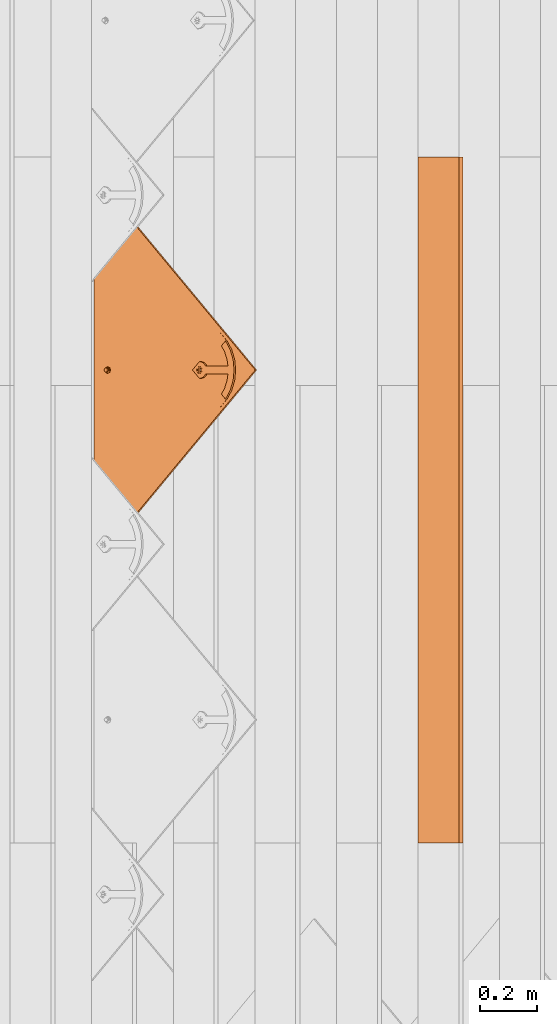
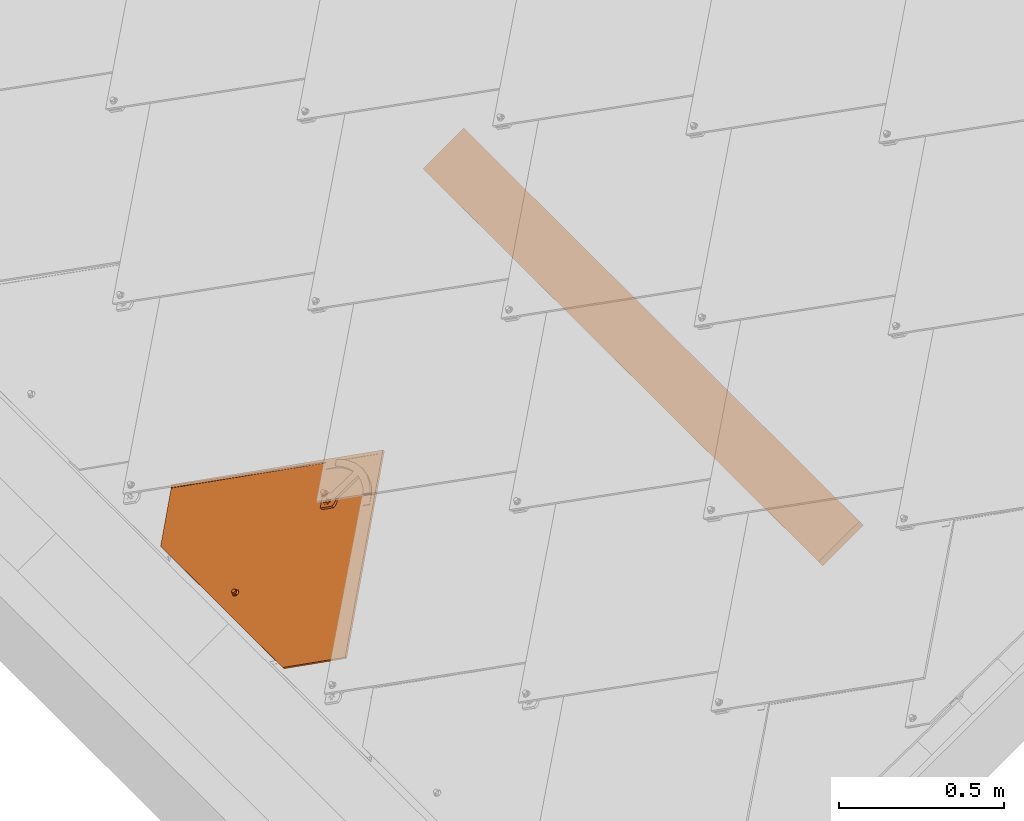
# One storey, part 21 of 151: 2 proxies, 1 element without a shape of its own.
"""IFC2X3 building model written with IfcOpenShell, lengths in millimetres."""

from ifc_helpers import new_model, entity, si_unit, converted_unit, derived_unit, direction, frame, frame_2d, origin, place, context, subcontext, project, spatial, rectangle, extrude, faceted_brep, source, transform, mapped, material, material_list, type_object, type_shapes, element, aggregate, save


model = new_model("IFC2X3")

# Units and contexts
model_context = context("Model", 3, precision=0.01, world=origin(), true_north=direction((6.12303176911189e-17, 1.0)))
body_context = subcontext(model_context, "Body", "Model", "MODEL_VIEW")
ifc_project = project(units=[si_unit("LENGTHUNIT", "METRE", prefix="MILLI"), si_unit("AREAUNIT", "SQUARE_METRE"), si_unit("VOLUMEUNIT", "CUBIC_METRE"), converted_unit("PLANEANGLEUNIT", "DEGREE", entity("IfcRatioMeasure", 0.0174532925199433), si_unit("PLANEANGLEUNIT", "RADIAN"), dimensions=[0, 0, 0, 0, 0, 0, 0]), si_unit("MASSUNIT", "GRAM", prefix="KILO"), derived_unit("MASSDENSITYUNIT", [(si_unit("MASSUNIT", "GRAM", prefix="KILO"), 1), (si_unit("LENGTHUNIT", "METRE"), -3)]), si_unit("TIMEUNIT", "SECOND"), si_unit("FREQUENCYUNIT", "HERTZ"), si_unit("THERMODYNAMICTEMPERATUREUNIT", "DEGREE_CELSIUS"), derived_unit("THERMALTRANSMITTANCEUNIT", [(si_unit("MASSUNIT", "GRAM", prefix="KILO"), 1), (si_unit("THERMODYNAMICTEMPERATUREUNIT", "KELVIN"), -1), (si_unit("TIMEUNIT", "SECOND"), -3)]), derived_unit("VOLUMETRICFLOWRATEUNIT", [(si_unit("LENGTHUNIT", "METRE"), 3), (si_unit("TIMEUNIT", "SECOND"), -1)]), si_unit("ELECTRICCURRENTUNIT", "AMPERE"), si_unit("ELECTRICVOLTAGEUNIT", "VOLT"), si_unit("POWERUNIT", "WATT"), si_unit("FORCEUNIT", "NEWTON", prefix="KILO"), si_unit("ILLUMINANCEUNIT", "LUX"), si_unit("LUMINOUSFLUXUNIT", "LUMEN"), si_unit("LUMINOUSINTENSITYUNIT", "CANDELA"), derived_unit("USERDEFINED", [(si_unit("MASSUNIT", "GRAM", prefix="KILO"), -1), (si_unit("LENGTHUNIT", "METRE"), -2), (si_unit("TIMEUNIT", "SECOND"), 3), (si_unit("LUMINOUSFLUXUNIT", "LUMEN"), 1)]), derived_unit("LINEARVELOCITYUNIT", [(si_unit("LENGTHUNIT", "METRE"), 1), (si_unit("TIMEUNIT", "SECOND"), -1)]), si_unit("PRESSUREUNIT", "PASCAL"), derived_unit("USERDEFINED", [(si_unit("LENGTHUNIT", "METRE"), -2), (si_unit("MASSUNIT", "GRAM", prefix="KILO"), 1), (si_unit("TIMEUNIT", "SECOND"), -2)])], contexts=[model_context])

# Site, building, storey
site_placement = place(None, origin())
site = spatial("IfcSite", under=ifc_project, at=site_placement, Name="Default", CompositionType="ELEMENT")
building_placement = place(site_placement, origin())
building = spatial("IfcBuilding", under=site, at=building_placement, CompositionType="ELEMENT")
storey_placement = place(building_placement, origin())
storey = spatial("IfcBuildingStorey", under=building, at=storey_placement, Name="Level 1", CompositionType="ELEMENT", Elevation=0.0)

# Assembly, proxy
assembly_placement = place(storey_placement, origin())
assembly = element("IfcElementAssembly", 1, at=assembly_placement, inside=storey, Name="Structural Framing Assembly:Roof Construction Assembly", ObjectType="Structural Framing Assembly:Roof Construction Assembly", AssemblyPlace="NOTDEFINED", PredefinedType="USERDEFINED")
ifc_material_1 = material(Name="Wood - Generic - Wood For Showcase")
building_element_proxy_type_1 = type_object("IfcBuildingElementProxyType", Name="Structural Framing 15", PredefinedType="NOTDEFINED", material=ifc_material_1)
shared_shape_1 = source(origin(), body_context, "Body", "SweptSolid", [
    extrude(rectangle(XDim=24.9999999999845, YDim=174.344679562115, at=frame_2d((-1.77635683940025e-13, -4.54747350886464e-13), x_axis=(0.0, 1.0))), frame((1128.20180147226, 1525.55080214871, 2760.23940055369), z_axis=(0.0, 1.0, 0.0), x_axis=(-0.819152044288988, 0.0, -0.573576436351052)), (0.0, 0.0, 1.0), 2400.0),
])
type_shapes(building_element_proxy_type_1, [shared_shape_1])
proxy_1_placement = place(assembly_placement, frame((-2227.54893967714, -7270.0, -1600.0)))
proxy_1 = element("IfcBuildingElementProxy", 2, at=proxy_1_placement, type_object=building_element_proxy_type_1, material=ifc_material_1, Name="Structural Framing 98:Structural Framing 15", ObjectType="Structural Framing 98:Structural Framing 15", context=body_context, shape_type="MappedRepresentation", body=[
    mapped(shared_shape_1, transform((0.0, 0.0, 0.0), scale=1.0)),
])
aggregate(assembly, [proxy_1])

# Proxy
ifc_material_2 = material(Name="Rubber - Sunstyle - Black")
ifc_material_3 = material(Name="Glass - Sunstyle - Tainted Black")
ifc_material_list_1 = material_list([ifc_material_2, ifc_material_3])
ifc_material_list_2 = material_list([ifc_material_2, ifc_material_3])
building_element_proxy_type_2 = type_object("IfcBuildingElementProxyType", Name="Shingle Bottom - Black", PredefinedType="NOTDEFINED", material=ifc_material_list_2)
shared_shape_2 = source(origin(), body_context, "Body", "Brep", [
    faceted_brep([(0.0, -1.79273515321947, -4.01619789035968), (-5.7742028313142, -5.12600528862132, -3.96037390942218), (-5.77420283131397, -4.75769619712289, 18.0314954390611), (0.0, -1.42442606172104, 17.9756714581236), (-5.77420283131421, -11.792545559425, -3.84872594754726), (-5.77420283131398, -11.4242364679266, 18.143143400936), (0.0, -15.1258156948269, -3.79290196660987), (0.0, -14.7575066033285, 18.1989673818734), (5.77420283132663, -11.7925455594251, -3.84872594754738), (5.77420283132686, -11.4242364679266, 18.1431434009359), (5.77420283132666, -5.12600528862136, -3.96037390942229), (5.77420283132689, -4.75769619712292, 18.031495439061), (-8.60370416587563, -16.6934641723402, 18.2313898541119), (0.0, -20.2567354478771, 18.2910657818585), (-12.1674751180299, -8.09096633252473, 18.0873194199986), (-8.60370416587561, 0.511531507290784, 17.9432489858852), (0.0, 4.07480278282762, 17.8835730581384), (8.60370416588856, 0.511531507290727, 17.9432489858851), (12.1674751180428, -8.09096633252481, 18.0873194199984), (8.60370416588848, -16.6934641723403, 18.2313898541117), (-11.4302228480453, -6.71737066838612, 20.4858706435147), (-9.77051349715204, -8.02009729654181, 22.3189355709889), (0.0, -0.706876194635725, 22.9603444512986), (0.0, 0.533621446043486, 22.3799978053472), (0.0, 2.69117229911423, 21.3706227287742), (-6.32324569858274, -4.35709193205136, 23.021476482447), (-6.32324569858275, -11.6575234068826, 23.1437405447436), (0.0, -18.7571148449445, 21.7298281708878), (0.0, -15.3077391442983, 23.2048725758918), (10.9851748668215, -11.808022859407, 20.3827540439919), (10.123850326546, -8.02413622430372, 22.0777687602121), (6.32324569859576, -4.3570919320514, 23.0214764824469), (6.32324569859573, -11.6575234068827, 23.1437405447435), (-6.32324569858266, -11.5234949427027, 31.146628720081), (0.0, -15.1737106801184, 31.2077607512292), (0.0, -7.8732792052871, 31.0854966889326), (-6.32324569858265, -4.22306346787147, 31.0243646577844), (6.32324569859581, -11.5234949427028, 31.1466287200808), (6.32324569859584, -4.22306346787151, 31.0243646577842), (0.0, -0.57284773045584, 30.963232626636), (0.0, -8.45927542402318, -3.90454992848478)], [[[0, 1, 2, 3]], [[1, 4, 5, 2]], [[4, 6, 7, 5]], [[6, 8, 9, 7]], [[8, 10, 11, 9]], [[10, 0, 3, 11]], [[12, 7, 13]], [[7, 12, 5]], [[14, 5, 12]], [[5, 14, 2]], [[15, 2, 14]], [[3, 2, 15]], [[15, 16, 3]], [[16, 17, 3]], [[11, 3, 17]], [[11, 17, 18]], [[9, 11, 18]], [[18, 19, 9]], [[7, 9, 19]], [[19, 13, 7]], [[15, 20, 16]], [[21, 22, 23, 24]], [[22, 21, 25]], [[20, 14, 12]], [[15, 14, 20]], [[25, 21, 26]], [[20, 24, 16]], [[12, 13, 27]], [[12, 27, 20]], [[21, 28, 26]], [[21, 27, 28]], [[20, 21, 24]], [[20, 27, 21]], [[19, 29, 13]], [[30, 23, 31]], [[30, 28, 27]], [[24, 23, 30]], [[29, 27, 13]], [[19, 18, 29]], [[29, 30, 27]], [[29, 17, 24]], [[24, 17, 16]], [[31, 32, 30]], [[23, 22, 31]], [[28, 30, 32]], [[29, 24, 30]], [[29, 18, 17]], [[33, 34, 35]], [[35, 36, 33]], [[34, 37, 35]], [[38, 35, 37]], [[35, 38, 39]], [[35, 39, 36]], [[40, 6, 4]], [[4, 1, 40]], [[1, 0, 40]], [[40, 8, 6]], [[0, 10, 40]], [[8, 40, 10]], [[22, 25, 36, 39]], [[25, 26, 33, 36]], [[26, 28, 34, 33]], [[28, 32, 37, 34]], [[32, 31, 38, 37]], [[31, 22, 39, 38]]]),
    faceted_brep([(0.0, 372.824876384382, 20.3195200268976), (0.0, 377.324245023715, 20.2441667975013), (-8.60370416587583, 376.388147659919, 20.2598440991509), (8.60370416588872, 376.388147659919, 20.2598440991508), (6.64022859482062, 381.157445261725, 20.1799702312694), (12.1674751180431, 384.990645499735, 20.1157736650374), (6.64022859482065, 388.823845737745, 20.0515770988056), (8.6037041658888, 393.59314333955, 19.9717032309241), (0.0, 392.657045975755, 19.9873805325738), (0.0, 397.156414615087, 19.9120273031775), (-8.60370416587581, 393.59314333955, 19.9717032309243), (-6.64022859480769, 388.823845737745, 20.0515770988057), (-12.1674751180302, 384.990645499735, 20.1157736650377), (-6.6402285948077, 381.157445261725, 20.1799702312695), (-6.6402282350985, 388.555922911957, 4.05382046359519), (0.0, 392.389122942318, 3.98962390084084), (-6.64022823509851, 380.889522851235, 4.18221358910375), (0.0, 377.056322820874, 4.24641015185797), (6.64022823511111, 380.889522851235, 4.18221358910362), (6.64022823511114, 388.555922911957, 4.05382046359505), (-8.603704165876, 376.12022504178, 4.26208746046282), (0.0, 372.556953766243, 4.32176338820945), (-12.1674751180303, 384.722722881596, 4.11801702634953), (-8.60370416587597, 393.325220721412, 3.97394659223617), (0.0, 396.888491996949, 3.91427066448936), (8.60370416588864, 393.325220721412, 3.97394659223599), (12.1674751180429, 384.722722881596, 4.11801702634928), (8.60370416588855, 376.12022504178, 4.26208746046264)], [[[0, 1, 2]], [[1, 0, 3]], [[3, 4, 1]], [[4, 3, 5]], [[6, 4, 5]], [[5, 7, 6]], [[7, 8, 6]], [[8, 7, 9]], [[8, 9, 10]], [[10, 11, 8]], [[12, 11, 10]], [[2, 13, 12]], [[12, 13, 11]], [[13, 2, 1]], [[8, 11, 14, 15]], [[11, 13, 16, 14]], [[13, 1, 17, 16]], [[1, 4, 18, 17]], [[4, 6, 19, 18]], [[6, 8, 15, 19]], [[20, 17, 21]], [[17, 20, 16]], [[22, 16, 20]], [[14, 16, 22]], [[23, 14, 22]], [[15, 14, 23]], [[23, 24, 15]], [[24, 25, 15]], [[19, 15, 25]], [[19, 25, 26]], [[26, 18, 19]], [[26, 27, 18]], [[17, 18, 27]], [[27, 21, 17]], [[24, 23, 10, 9]], [[10, 23, 22, 12]], [[20, 21, 0, 2]], [[20, 2, 12, 22]], [[21, 27, 3, 0]], [[3, 27, 26, 5]], [[25, 24, 9, 7]], [[25, 7, 5, 26]]]),
    faceted_brep([(518.247351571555, 79.9143812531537, 14.965257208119), (526.732038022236, 88.3990677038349, 14.8231598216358), (526.732038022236, 88.4241854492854, 16.3229495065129), (518.247351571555, 79.9394989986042, 16.4650468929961), (0.000322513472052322, 598.016093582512, 6.28834266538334), (-518.246706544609, 79.9143812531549, 14.9652572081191), (-526.73139299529, 88.3990677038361, 14.8231598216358), (0.000322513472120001, 614.983087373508, 6.00418773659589), (0.000322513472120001, 615.008205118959, 7.50397742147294), (-526.731392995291, 88.4241854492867, 16.3229495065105), (-518.246706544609, 79.9394989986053, 16.465046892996), (0.000322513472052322, 598.041211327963, 7.78813235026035)], [[[0, 1, 2, 3]], [[1, 0, 4, 5, 6, 7]], [[2, 1, 7, 8]], [[3, 2, 8, 9, 10, 11]], [[0, 3, 11, 4]], [[5, 10, 9, 6]], [[8, 7, 6, 9]], [[4, 11, 10, 5]]]),
    faceted_brep([(0.00032251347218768, 614.983087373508, 6.00418773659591), (-2.87802047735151, 396.187349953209, 9.66847193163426), (0.227808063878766, 396.596182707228, 9.6616250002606), (-5.77219193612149, 394.988712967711, 9.68854611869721), (3.3336366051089, 396.187349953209, 9.66847193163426), (6.22780806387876, 394.988712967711, 9.6885461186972), (8.71308943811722, 393.081956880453, 9.72047953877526), (10.620112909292, 390.59702396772, 9.76209598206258), (-8.25747331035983, 393.081956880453, 9.72047953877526), (-10.1644967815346, 390.59702396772, 9.76209598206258), (-11.3633018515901, 387.703258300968, 9.81055935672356), (-526.731392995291, 88.3990677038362, 14.8231598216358), (11.8189179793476, 387.703258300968, 9.81055935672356), (526.732038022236, 88.3990677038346, 14.8231598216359), (-11.7721919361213, 384.597865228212, 9.86256696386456), (-11.3633018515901, 381.492472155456, 9.91457457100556), (-10.1644967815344, 378.598706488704, 9.96303794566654), (-370.355016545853, -67.9334607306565, 17.4413406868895), (-8.25747331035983, 376.113773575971, 10.0046543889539), (-5.65685424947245, -2.29422365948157, 16.3420467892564), (-6.92820323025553, -3.95084560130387, 16.3697910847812), (-7.72740661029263, -5.88002271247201, 16.4021000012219), (-8.0, -7.95028476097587, 16.4367717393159), (-7.72740661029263, -10.0205468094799, 16.4714434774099), (-6.9282032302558, -11.9497239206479, 16.5037523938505), (-5.65685424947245, -13.6063458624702, 16.5314966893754), (-4.0, -14.8775165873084, 16.5527856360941), (-2.07055236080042, -15.676607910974, 16.5661684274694), (0.0, -15.9491630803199, 16.5707330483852), (370.355661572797, -67.9334607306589, 17.4413406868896), (10.620112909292, 378.598706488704, 9.96303794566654), (8.71308943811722, 376.11377357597, 10.0046543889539), (5.65685424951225, -2.29422365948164, 16.3420467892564), (6.92820323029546, -3.9508456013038, 16.3697910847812), (7.72740661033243, -5.88002271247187, 16.4021000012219), (8.0, -7.9502847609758, 16.4367717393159), (7.72740661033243, -10.0205468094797, 16.4714434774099), (6.92820323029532, -11.9497239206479, 16.5037523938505), (5.65685424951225, -13.6063458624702, 16.5314966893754), (4.0, -14.8775165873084, 16.5527856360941), (2.07055236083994, -15.676607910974, 16.5661684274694), (-5.77219193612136, 374.207017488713, 10.0365878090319), (-4.0, -1.02305293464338, 16.3207578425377), (-2.87802047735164, 373.008380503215, 10.0566619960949), (-2.07055236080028, -0.223961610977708, 16.3073750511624), (0.227808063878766, 372.599547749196, 10.0635089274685), (0.0, 0.0485935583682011, 16.3028104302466), (2.07055236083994, -0.223961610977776, 16.3073750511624), (3.3336366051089, 373.008380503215, 10.0566619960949), (4.0, -1.02305293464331, 16.3207578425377), (6.22780806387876, 374.207017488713, 10.0365878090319), (12.2278080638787, 384.597865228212, 9.86256696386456), (11.8189179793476, 381.492472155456, 9.91457457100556), (-370.355016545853, -68.059049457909, 9.94239226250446), (-6.92820323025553, -4.07643432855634, 8.87084266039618), (-7.72740661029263, -6.00561143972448, 8.90315157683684), (-8.0, -8.07587348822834, 8.93782331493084), (-7.72740661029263, -10.1461355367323, 8.97249505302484), (-6.9282032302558, -12.0753126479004, 9.00480396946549), (-5.65685424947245, -13.7319345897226, 9.03254826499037), (-5.65685424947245, -2.41981238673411, 8.8430983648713), (-8.25747331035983, 375.988184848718, 2.50570596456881), (-4.0, -15.0031053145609, 9.05383721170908), (-2.07055236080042, -15.8021966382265, 9.06722000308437), (0.0, -16.0747518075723, 9.07178462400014), (370.355661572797, -68.0590494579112, 9.9423922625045), (-10.1644967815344, 378.473117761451, 2.46408952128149), (-526.731392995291, 88.2734789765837, 7.32421139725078), (-11.3633018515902, 381.366883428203, 2.41562614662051), (-11.7721919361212, 384.472276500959, 2.36361853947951), (-11.3633018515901, 387.577669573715, 2.3116109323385), (0.00032251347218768, 614.857498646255, -1.49476068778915), (-10.1644967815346, 390.471435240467, 2.26314755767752), (-8.25747331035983, 392.956368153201, 2.22153111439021), (-5.77219193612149, 394.863124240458, 2.18959769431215), (-2.87802047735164, 396.061761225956, 2.16952350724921), (0.227808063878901, 396.470593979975, 2.16267657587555), (3.3336366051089, 396.061761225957, 2.1695235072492), (6.22780806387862, 394.863124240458, 2.18959769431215), (8.71308943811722, 392.956368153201, 2.2215311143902), (10.620112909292, 390.471435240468, 2.26314755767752), (11.8189179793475, 387.577669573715, 2.31161093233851), (526.732038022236, 88.2734789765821, 7.32421139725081), (12.2278080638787, 384.472276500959, 2.3636185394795), (10.620112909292, 378.473117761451, 2.46408952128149), (11.8189179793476, 381.366883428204, 2.41562614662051), (-5.77219193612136, 374.08142876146, 2.53763938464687), (-4.0, -1.14864166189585, 8.8218094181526), (-2.87802047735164, 372.882791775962, 2.55771357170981), (-2.07055236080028, -0.349550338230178, 8.8084266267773), (0.227808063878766, 372.473959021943, 2.56456050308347), (0.0, -0.0769951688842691, 8.80386200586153), (2.07055236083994, -0.349550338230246, 8.8084266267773), (3.3336366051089, 372.882791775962, 2.55771357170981), (4.0, -1.14864166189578, 8.8218094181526), (6.22780806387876, 374.081428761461, 2.53763938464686), (5.65685424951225, -2.41981238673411, 8.8430983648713), (8.71308943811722, 375.988184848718, 2.50570596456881), (6.92820323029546, -4.07643432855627, 8.87084266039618), (7.72740661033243, -6.00561143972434, 8.90315157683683), (8.0, -8.07587348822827, 8.93782331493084), (7.72740661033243, -10.1461355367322, 8.97249505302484), (6.92820323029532, -12.0753126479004, 9.00480396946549), (5.65685424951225, -13.7319345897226, 9.03254826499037), (4.0, -15.0031053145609, 9.05383721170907), (2.07055236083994, -15.8021966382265, 9.06722000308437)], [[[0, 1, 2]], [[1, 0, 3]], [[0, 2, 4]], [[4, 5, 0]], [[5, 6, 0]], [[0, 6, 7]], [[8, 3, 0]], [[9, 8, 0]], [[9, 0, 10]], [[10, 0, 11]], [[12, 0, 7]], [[12, 13, 0]], [[11, 14, 10]], [[14, 11, 15]], [[16, 15, 11]], [[11, 17, 16]], [[16, 17, 18]], [[19, 18, 17]], [[19, 17, 20]], [[20, 17, 21]], [[22, 21, 17]], [[22, 17, 23]], [[24, 23, 17]], [[17, 25, 24]], [[26, 25, 17]], [[27, 26, 17]], [[17, 28, 27]], [[28, 17, 29]], [[29, 13, 30]], [[29, 30, 31]], [[29, 31, 32]], [[32, 33, 29]], [[33, 34, 29]], [[35, 29, 34]], [[29, 35, 36]], [[36, 37, 29]], [[29, 37, 38]], [[38, 39, 29]], [[40, 28, 29]], [[39, 40, 29]], [[41, 18, 19]], [[42, 41, 19]], [[42, 43, 41]], [[44, 43, 42]], [[44, 45, 43]], [[46, 45, 44]], [[47, 45, 46]], [[48, 45, 47]], [[49, 48, 47]], [[49, 50, 48]], [[32, 50, 49]], [[32, 31, 50]], [[12, 51, 13]], [[52, 13, 51]], [[13, 52, 30]], [[53, 54, 55]], [[53, 55, 56]], [[56, 57, 53]], [[57, 58, 53]], [[53, 58, 59]], [[60, 54, 53]], [[61, 60, 53]], [[59, 62, 53]], [[62, 63, 53]], [[63, 64, 53]], [[53, 64, 65]], [[66, 61, 53]], [[66, 53, 67]], [[68, 66, 67]], [[69, 68, 67]], [[69, 67, 70]], [[67, 71, 70]], [[72, 70, 71]], [[73, 72, 71]], [[71, 74, 73]], [[74, 71, 75]], [[75, 71, 76]], [[77, 76, 71]], [[77, 71, 78]], [[79, 78, 71]], [[71, 80, 79]], [[80, 71, 81]], [[71, 82, 81]], [[83, 81, 82]], [[84, 82, 65]], [[85, 82, 84]], [[82, 85, 83]], [[86, 60, 61]], [[86, 87, 60]], [[88, 87, 86]], [[89, 87, 88]], [[90, 89, 88]], [[90, 91, 89]], [[92, 91, 90]], [[92, 90, 93]], [[94, 92, 93]], [[93, 95, 94]], [[94, 95, 96]], [[97, 96, 95]], [[96, 97, 65]], [[84, 65, 97]], [[98, 96, 65]], [[99, 98, 65]], [[99, 65, 100]], [[101, 100, 65]], [[102, 101, 65]], [[103, 102, 65]], [[104, 103, 65]], [[105, 104, 65]], [[65, 64, 105]], [[11, 0, 71, 67]], [[17, 11, 67, 53]], [[13, 29, 65, 82]], [[0, 13, 82, 71]], [[22, 56, 55, 21]], [[21, 55, 54, 20]], [[42, 19, 60, 87]], [[60, 19, 20, 54]], [[44, 42, 87, 89]], [[44, 89, 91, 46]], [[46, 91, 92, 47]], [[47, 92, 94, 49]], [[33, 32, 96, 98]], [[96, 32, 49, 94]], [[34, 33, 98, 99]], [[34, 99, 100, 35]], [[35, 100, 101, 36]], [[36, 101, 102, 37]], [[39, 38, 103, 104]], [[103, 38, 37, 102]], [[40, 39, 104, 105]], [[40, 105, 64, 28]], [[28, 64, 63, 27]], [[27, 63, 62, 26]], [[24, 25, 59, 58]], [[59, 25, 26, 62]], [[23, 24, 58, 57]], [[23, 57, 56, 22]], [[14, 69, 70, 10]], [[10, 70, 72, 9]], [[3, 8, 73, 74]], [[73, 8, 9, 72]], [[1, 3, 74, 75]], [[1, 75, 76, 2]], [[2, 76, 77, 4]], [[4, 77, 78, 5]], [[7, 6, 79, 80]], [[79, 6, 5, 78]], [[12, 7, 80, 81]], [[12, 81, 83, 51]], [[51, 83, 85, 52]], [[52, 85, 84, 30]], [[50, 31, 97, 95]], [[97, 31, 30, 84]], [[48, 50, 95, 93]], [[48, 93, 90, 45]], [[45, 90, 88, 43]], [[43, 88, 86, 41]], [[16, 18, 61, 66]], [[41, 86, 61, 18]], [[68, 15, 16, 66]], [[15, 68, 69, 14]], [[29, 17, 53, 65]]]),
    faceted_brep([(-111.269043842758, 451.472531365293, 11.2429332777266), (-84.9443960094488, 477.793488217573, 10.8021227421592), (-102.027571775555, 494.874268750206, 10.5160621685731), (-108.279973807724, 489.512620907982, 10.6058564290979), (-114.2509690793, 483.839345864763, 10.7008696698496), (-128.946713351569, 469.147722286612, 10.9469178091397), (128.946713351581, 469.147722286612, 10.9469178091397), (114.250969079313, 483.839345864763, 10.7008696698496), (108.279973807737, 489.512620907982, 10.6058564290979), (102.027571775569, 494.874268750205, 10.5160621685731), (84.9431983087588, 477.794685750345, 10.802102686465), (111.269043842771, 451.472531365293, 11.2429332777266), (-8.48528137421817, 393.302959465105, 19.7181805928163), (-18.7041061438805, 407.484939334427, 19.4806677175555), (-23.2046504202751, 402.851933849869, 19.5582590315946), (-10.3923048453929, 390.818026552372, 19.7597970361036), (-6.0, 395.209715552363, 19.6862471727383), (-13.2999999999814, 411.02298750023, 19.4214142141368), (-3.10582854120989, 396.408352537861, 19.6661729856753), (0.0, 396.81718529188, 19.6593260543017), (13.3000000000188, 411.022987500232, 19.4214142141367), (3.10582854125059, 396.408352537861, 19.6661729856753), (6.0, 395.209715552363, 19.6862471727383), (18.7041061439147, 407.484939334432, 19.4806677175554), (8.48528137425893, 393.302959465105, 19.7181805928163), (23.2046504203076, 402.85193384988, 19.5582590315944), (10.3923048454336, 390.818026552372, 19.7597970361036), (26.5842195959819, 397.347783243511, 19.6504398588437), (11.5911099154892, 387.92426088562, 19.8082604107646), (28.6795527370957, 391.238383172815, 19.752757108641), (12.0, 384.818867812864, 19.8602680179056), (29.3894280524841, 384.818867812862, 19.8602680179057), (11.5911099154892, 381.713474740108, 19.9122756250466), (10.3923048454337, 378.819709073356, 19.9607389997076), (8.48528137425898, 376.334776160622, 20.0023554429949), (0.0, 355.433560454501, 20.3523987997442), (6.0, 374.428020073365, 20.034288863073), (3.10582854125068, 373.229383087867, 20.0543630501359), (0.0, 372.820550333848, 20.0612099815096), (-3.10582854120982, 373.229383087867, 20.0543630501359), (-6.0, 374.428020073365, 20.034288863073), (-8.48528137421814, 376.334776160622, 20.0023554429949), (-29.3894280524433, 384.818867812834, 19.8602680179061), (-10.3923048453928, 378.819709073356, 19.9607389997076), (-11.5911099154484, 381.713474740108, 19.9122756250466), (-12.0, 384.818867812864, 19.8602680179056), (-28.67955273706, 391.238383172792, 19.7527571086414), (-11.5911099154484, 387.92426088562, 19.8082604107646), (-26.5842195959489, 397.347783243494, 19.650439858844), (-13.2999999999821, 505.810987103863, 17.833951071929), (13.3000000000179, 505.810987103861, 17.833951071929), (0.0, 531.282600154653, 17.4073649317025), (36.4908407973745, 527.108634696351, 17.4772684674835), (38.7697427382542, 500.996106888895, 17.9145883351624), (71.096085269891, 514.802420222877, 17.6833669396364), (62.9243331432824, 491.592473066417, 18.0720758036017), (102.027571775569, 494.999857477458, 18.0150105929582), (84.9443960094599, 477.919076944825, 18.3010711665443), (-36.4908407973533, 527.108634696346, 17.4772684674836), (-38.7697427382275, 500.996106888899, 17.9145883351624), (-71.0960852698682, 514.802420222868, 17.6833669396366), (-62.9243331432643, 491.592473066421, 18.0720758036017), (-102.027571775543, 494.999857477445, 18.0150105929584), (-84.9443960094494, 477.919076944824, 18.3010711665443), (0.0, 355.266108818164, 10.3538009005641), (0.0, 372.653098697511, 10.0626120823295), (3.10582854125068, 373.06193145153, 10.0557651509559), (-3.10582854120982, 373.06193145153, 10.0557651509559), (6.0, 374.260568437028, 10.0356909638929), (8.48528137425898, 376.167324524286, 10.0037575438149), (29.3894280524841, 384.651416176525, 9.86167011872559), (-6.0, 374.260568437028, 10.0356909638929), (-8.48528137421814, 376.167324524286, 10.0037575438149), (-29.3894280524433, 384.651416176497, 9.86167011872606), (-10.3923048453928, 378.652257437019, 9.96214110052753), (-11.5911099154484, 381.546023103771, 9.91367772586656), (-12.0, 384.651416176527, 9.86167011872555), (-28.67955273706, 391.070931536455, 9.75415920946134), (-11.5911099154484, 387.756809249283, 9.80966251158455), (-26.5842195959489, 397.180331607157, 9.65184195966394), (-10.3923048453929, 390.650574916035, 9.76119913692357), (-23.2046504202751, 402.684482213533, 9.5596611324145), (-8.48528137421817, 393.135507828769, 9.71958269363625), (-18.7041061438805, 407.31748769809, 9.48206981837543), (-6.0, 395.042263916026, 9.6876492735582), (-13.2999999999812, 410.855535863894, 9.4228163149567), (-3.10582854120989, 396.240900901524, 9.66757508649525), (0.0, 396.649733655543, 9.66072815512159), (13.3000000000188, 410.855535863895, 9.42281631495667), (-13.2999999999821, 505.643535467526, 7.83535317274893), (13.3000000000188, 505.643535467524, 7.83535317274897), (0.0, 531.115148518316, 7.4087670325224), (-36.4908407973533, 526.94118306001, 7.47867056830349), (-38.7697427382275, 500.828655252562, 7.91599043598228), (-71.0960852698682, 514.634968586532, 7.68476904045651), (-62.9243331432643, 491.425021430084, 8.07347790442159), (-102.027571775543, 494.832405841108, 8.01641269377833), (-84.9431983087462, 477.752822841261, 8.30245321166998), (-108.279973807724, 489.470757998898, 8.10620695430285), (-114.2509690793, 483.79748295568, 8.2012201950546), (-111.269043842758, 451.430668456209, 8.74328380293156), (-128.946713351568, 469.105859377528, 8.44726833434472), (36.4908407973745, 526.941183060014, 7.47867056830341), (38.7697427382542, 500.828655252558, 7.91599043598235), (71.096085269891, 514.634968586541, 7.68476904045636), (62.9243331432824, 491.425021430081, 8.07347790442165), (102.027571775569, 494.832405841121, 8.01641269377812), (84.9443960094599, 477.751625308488, 8.30247326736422), (108.279973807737, 489.470757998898, 8.10620695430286), (114.250969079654, 483.797482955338, 8.20122019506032), (111.269043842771, 451.430668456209, 8.74328380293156), (128.946713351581, 469.105859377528, 8.44726833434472), (3.10582854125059, 396.240900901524, 9.66757508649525), (6.0, 395.042263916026, 9.6876492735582), (18.7041061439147, 407.317487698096, 9.48206981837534), (8.48528137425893, 393.135507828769, 9.71958269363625), (23.2046504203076, 402.684482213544, 9.55966113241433), (10.3923048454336, 390.650574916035, 9.76119913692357), (26.5842195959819, 397.180331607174, 9.65184195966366), (11.5911099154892, 387.756809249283, 9.80966251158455), (28.6795527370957, 391.070931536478, 9.75415920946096), (12.0, 384.651416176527, 9.86167011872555), (11.5911099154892, 381.546023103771, 9.91367772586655), (10.3923048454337, 378.652257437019, 9.96214110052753)], [[[0, 1, 2, 3, 4, 5]], [[6, 7, 8, 9, 10, 11]], [[12, 13, 14]], [[15, 12, 14]], [[16, 13, 12]], [[13, 16, 17]], [[17, 16, 18]], [[18, 19, 17]], [[20, 17, 19]], [[19, 21, 20]], [[22, 20, 21]], [[22, 23, 20]], [[22, 24, 23]], [[25, 23, 24]], [[26, 25, 24]], [[25, 26, 27]], [[26, 28, 27]], [[29, 27, 28]], [[28, 30, 29]], [[31, 29, 30]], [[30, 32, 31]], [[32, 33, 31]], [[31, 33, 34]], [[34, 35, 31]], [[34, 36, 35]], [[37, 35, 36]], [[38, 35, 37]], [[35, 38, 39]], [[40, 35, 39]], [[40, 41, 35]], [[42, 35, 41]], [[43, 42, 41]], [[43, 44, 42]], [[44, 45, 42]], [[45, 46, 42]], [[46, 45, 47]], [[48, 46, 47]], [[47, 15, 48]], [[48, 15, 14]], [[20, 49, 17]], [[49, 20, 50]], [[51, 49, 50]], [[50, 52, 51]], [[53, 52, 50]], [[52, 53, 54]], [[55, 54, 53]], [[54, 55, 56]], [[55, 57, 56]], [[58, 49, 51]], [[49, 58, 59]], [[60, 59, 58]], [[60, 61, 59]], [[61, 60, 62]], [[61, 62, 63]], [[64, 65, 66]], [[65, 64, 67]], [[64, 66, 68]], [[68, 69, 64]], [[64, 69, 70]], [[71, 67, 64]], [[71, 64, 72]], [[72, 64, 73]], [[73, 74, 72]], [[74, 73, 75]], [[76, 75, 73]], [[77, 76, 73]], [[76, 77, 78]], [[78, 77, 79]], [[80, 78, 79]], [[81, 80, 79]], [[82, 80, 81]], [[81, 83, 82]], [[83, 84, 82]], [[84, 83, 85]], [[85, 86, 84]], [[87, 86, 85]], [[87, 85, 88]], [[88, 85, 89]], [[88, 89, 90]], [[89, 91, 90]], [[91, 89, 92]], [[93, 92, 89]], [[94, 92, 93]], [[93, 95, 94]], [[95, 96, 94]], [[97, 96, 95]], [[98, 96, 97]], [[99, 98, 97]], [[97, 100, 99]], [[101, 99, 100]], [[102, 90, 91]], [[90, 102, 103]], [[104, 103, 102]], [[103, 104, 105]], [[105, 104, 106]], [[107, 105, 106]], [[107, 106, 108]], [[109, 107, 108]], [[110, 107, 109]], [[111, 110, 109]], [[87, 88, 112]], [[113, 112, 88]], [[114, 113, 88]], [[115, 113, 114]], [[115, 114, 116]], [[116, 117, 115]], [[116, 118, 117]], [[117, 118, 119]], [[119, 118, 120]], [[121, 119, 120]], [[120, 70, 121]], [[122, 121, 70]], [[70, 69, 123]], [[123, 122, 70]], [[17, 49, 89, 85]], [[13, 17, 85, 83]], [[14, 13, 83, 81]], [[81, 79, 48, 14]], [[46, 48, 79, 77]], [[42, 46, 77, 73]], [[35, 42, 73, 64]], [[31, 35, 64, 70]], [[29, 31, 70, 120]], [[27, 29, 120, 118]], [[118, 116, 25, 27]], [[23, 25, 116, 114]], [[20, 23, 114, 88]], [[50, 20, 88, 90]], [[9, 106, 104, 54, 56]], [[52, 54, 104, 102]], [[51, 52, 102, 91]], [[58, 51, 91, 92]], [[94, 96, 2, 62, 60]], [[60, 58, 92, 94]], [[45, 76, 78, 47]], [[47, 78, 80, 15]], [[16, 12, 82, 84]], [[80, 82, 12, 15]], [[18, 16, 84, 86]], [[87, 19, 18, 86]], [[21, 112, 113, 22]], [[22, 113, 115, 24]], [[28, 26, 117, 119]], [[115, 117, 26, 24]], [[30, 28, 119, 121]], [[21, 19, 87, 112]], [[30, 121, 122, 32]], [[32, 122, 123, 33]], [[36, 34, 69, 68]], [[123, 69, 34, 33]], [[37, 36, 68, 66]], [[65, 38, 37, 66]], [[39, 67, 71, 40]], [[40, 71, 72, 41]], [[44, 43, 74, 75]], [[72, 74, 43, 41]], [[45, 44, 75, 76]], [[39, 38, 65, 67]], [[7, 6, 111, 109]], [[6, 11, 110, 111]], [[7, 109, 108, 8]], [[108, 106, 9, 8]], [[11, 10, 107, 110]], [[0, 5, 101, 100]], [[1, 0, 100, 97]], [[2, 96, 98, 3]], [[98, 99, 4, 3]], [[5, 4, 99, 101]], [[63, 62, 2, 1]], [[56, 57, 10]], [[10, 9, 56]], [[1, 95, 61, 63]], [[1, 97, 95]], [[93, 89, 49, 59]], [[95, 93, 59, 61]], [[90, 103, 53, 50]], [[103, 105, 55, 53]], [[10, 57, 55]], [[107, 10, 105]], [[55, 105, 10]]]),
])
type_shapes(building_element_proxy_type_2, [shared_shape_2])
proxy_2_placement = place(storey_placement, frame((-2247.27246462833, -4089.46602772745, 371.713116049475), z_axis=(-0.57357643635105, 0.0, 0.819152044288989), x_axis=(0.0, -1.0, 0.0)))
element("IfcBuildingElementProxy", 3, at=proxy_2_placement, inside=storey, type_object=building_element_proxy_type_2, material=ifc_material_list_1, Name="Roofing_Panels_SunStyle_Tile_Shingle-Bottom:Shingle Bottom - Black", ObjectType="Roofing_Panels_SunStyle_Tile_Shingle-Bottom:Shingle Bottom - Black", context=body_context, shape_type="MappedRepresentation", body=[
    mapped(shared_shape_2, transform((0.0, 0.0, 0.0), scale=1.0)),
])

save(model, "model.ifc")
